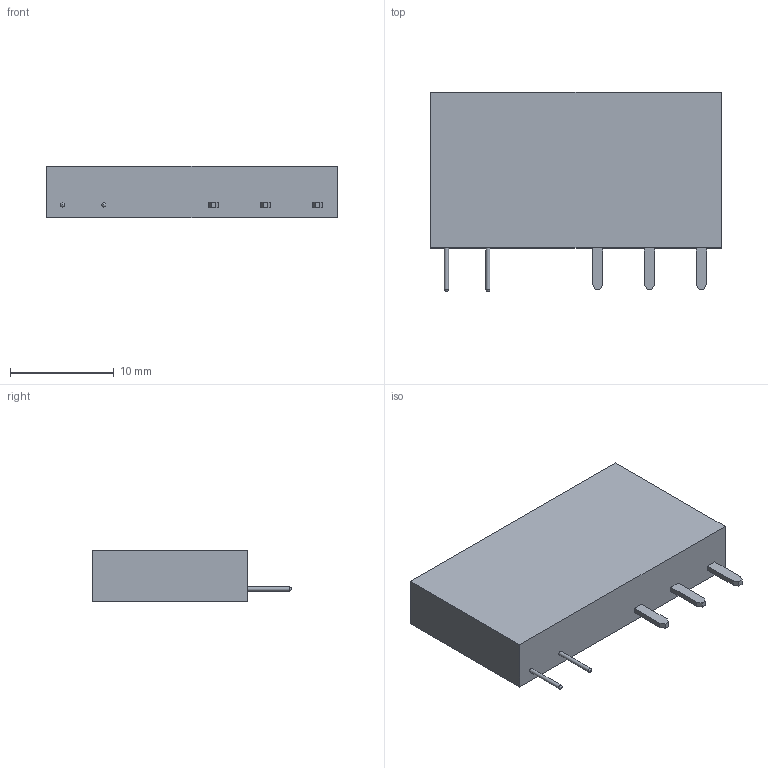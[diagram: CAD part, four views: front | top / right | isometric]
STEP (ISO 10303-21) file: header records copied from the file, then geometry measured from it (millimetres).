
FILE_DESCRIPTION (( 'STEP AP214' ), '1' );
FILE_NAME ('ÐÏ slim 23_1 6A 24Â DC EKF AVERES (rps-23-1-24DC).STEP', '2023-03-29T07:50:42', ( '' ), ( '' ), 'SwSTEP 2.0', 'SolidWorks 2021', '' );
FILE_SCHEMA (( 'AUTOMOTIVE_DESIGN' ));
Length unit declared in the file: millimetre
Products named in the file (1): ÐÏ slim 23_1 6A 24Â DC EKF AVERES (rps-23-1-24DC)
Bounding box: 28 x 19.2 x 5 mm (x, y, z)
Volume: 2106.8 mm3; surface area: 1314.8 mm2
Topology: 1 solids, 1 shells, 31 faces, 80 edges, 54 vertices
Faces by surface type: plane 27, cylinder 2, sphere 2
Full cylindrical faces by diameter (mm): 0.4 x2
Entity records: 894 total; most frequent: CARTESIAN_POINT 150, ORIENTED_EDGE 140, DIRECTION 138, EDGE_CURVE 70, VECTOR 66, LINE 66, VERTEX_POINT 48, EDGE_LOOP 38
